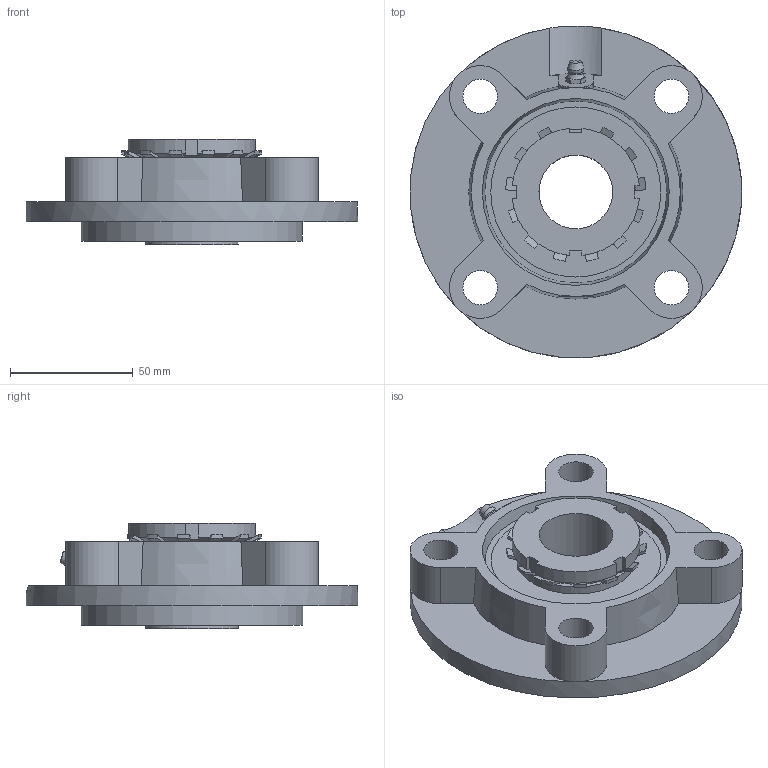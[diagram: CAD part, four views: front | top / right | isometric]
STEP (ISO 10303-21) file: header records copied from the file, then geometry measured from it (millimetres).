
FILE_DESCRIPTION((''),'2;1');
FILE_NAME('\\Ts-tgl068\j-cad-d-base\00.3DCADデータ作成フォルダ\02.フランジ形\UKFC200\UKFC207+H.stp','2014-11-20T16:42:22',('btec_1106_2'),(''),'Autodesk Inventor 2012','Autodesk Inventor 2012','');
FILE_SCHEMA(('AUTOMOTIVE_DESIGN { 1 0 10303 214 1 1 1 1 }'));
Length unit declared in the file: millimetre
Products named in the file (4): UKFC200+H; FC207; UK207; GU1
Assembly tree (3 placements, depth 2):
  UKFC200+H
    FC207
    UK207
    GU1
Bounding box: 134.84 x 134.96 x 43 mm (x, y, z)
Volume: 235797.8 mm3; surface area: 65641.6 mm2
Topology: 3 solids, 3 shells, 182 faces, 482 edges, 313 vertices
Faces by surface type: plane 79, cone 50, cylinder 45, sphere 4, bspline 2, torus 2
Full cylindrical faces by diameter (mm): 5.359 x1, 6.35 x1, 14 x4, 30 x1, 48 x2, 90 x1, 135 x1
Entity records: 5598 total; most frequent: CARTESIAN_POINT 1305, ORIENTED_EDGE 904, DIRECTION 853, EDGE_CURVE 452, AXIS2_PLACEMENT_3D 348, VERTEX_POINT 302, EDGE_LOOP 225, FACE_OUTER_BOUND 182
